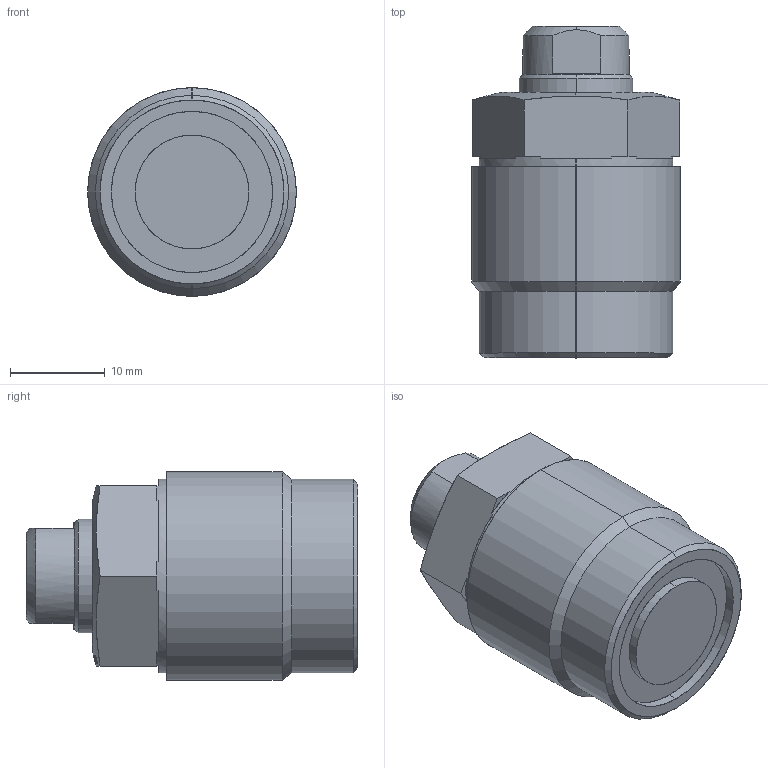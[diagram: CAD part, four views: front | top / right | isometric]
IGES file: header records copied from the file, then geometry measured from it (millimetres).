
Start section: SolidWorks IGES file using analytic representation for surfaces
Global section: file name: D:\karuppas\Clasp\3D model\Thread body cylinder\T03C-M221 -S threaded pusher\T03C-M221-S threaded pusher.IGS; native system: SolidWorks 2017; preprocessor: SolidWorks 2017; author: pc; date: 220709.230629; units: millimetre
Bounding box: 22 x 35 x 22 mm (x, y, z)
Surface area: 4241.3 mm2 (no closed solid volume)
Topology: 0 solids, 0 shells, 249 faces, 2751 edges, 2749 vertices
Faces by surface type: bspline 219, revolution 30
